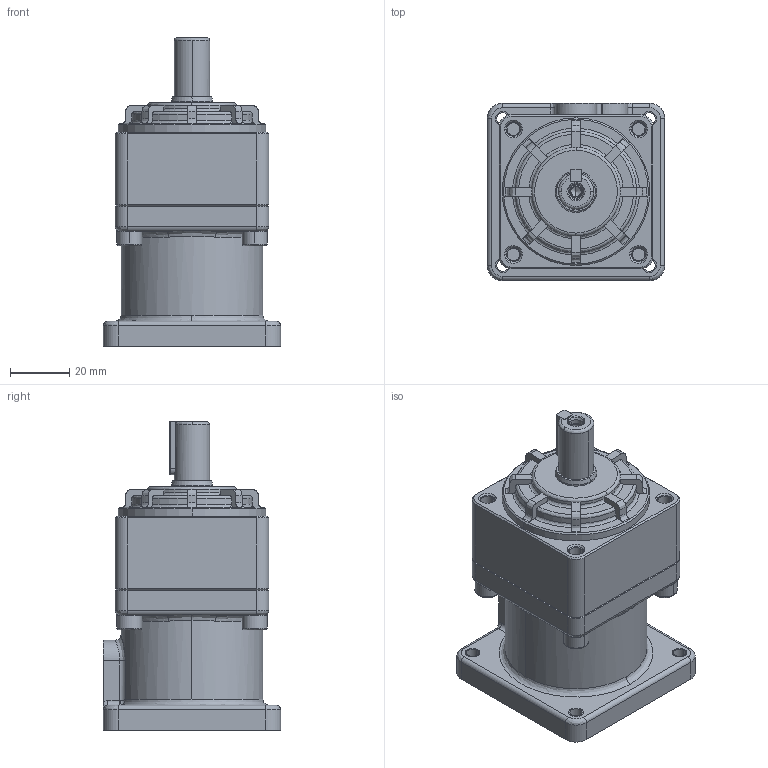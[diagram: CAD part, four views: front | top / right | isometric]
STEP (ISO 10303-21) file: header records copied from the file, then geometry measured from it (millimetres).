
FILE_DESCRIPTION (( 'STEP AP214' ), '1' );
FILE_NAME ('VRSF060-L1-S2-P2 14-50-70-M5.STEP', '2022-02-14T05:00:00', ( 'Admin' ), ( '' ), 'SwSTEP 2.0', 'SolidWorks 2018', '' );
FILE_SCHEMA (( 'AUTOMOTIVE_DESIGN' ));
Length unit declared in the file: millimetre
Products named in the file (12): VRSF060-604_2; M5-20; VRSF060-605-004_2; VRSF060-616_2; VRSF060-604; M4-16; VRSF060-L1-S2-P2 14-50-70-M5; C4X4X18; VRSF060-605-004; VRSF060-609-006_2; VRSF060-616; VRSF060-609-006
Assembly tree (14 placements, depth 2):
  VRSF060-L1-S2-P2 14-50-70-M5
    VRSF060-604
    VRSF060-604_2
    VRSF060-616
    VRSF060-616_2
    VRSF060-605-004_2
    VRSF060-605-004
    VRSF060-609-006
    VRSF060-609-006_2
    C4X4X18
    M5-20  x4
    M4-16
Bounding box: 60 x 60 x 104.5 mm (x, y, z)
Volume: 169393 mm3; surface area: 47490.9 mm2
Topology: 10 solids, 24 shells, 1631 faces, 3676 edges, 2083 vertices
Faces by surface type: cone 824, cylinder 539, plane 183, bspline 85
Entity records: 30005 total; most frequent: CARTESIAN_POINT 9707, DIRECTION 4364, ORIENTED_EDGE 4030, EDGE_CURVE 2044, AXIS2_PLACEMENT_3D 1738, VERTEX_POINT 1204, EDGE_LOOP 932, CIRCLE 921
